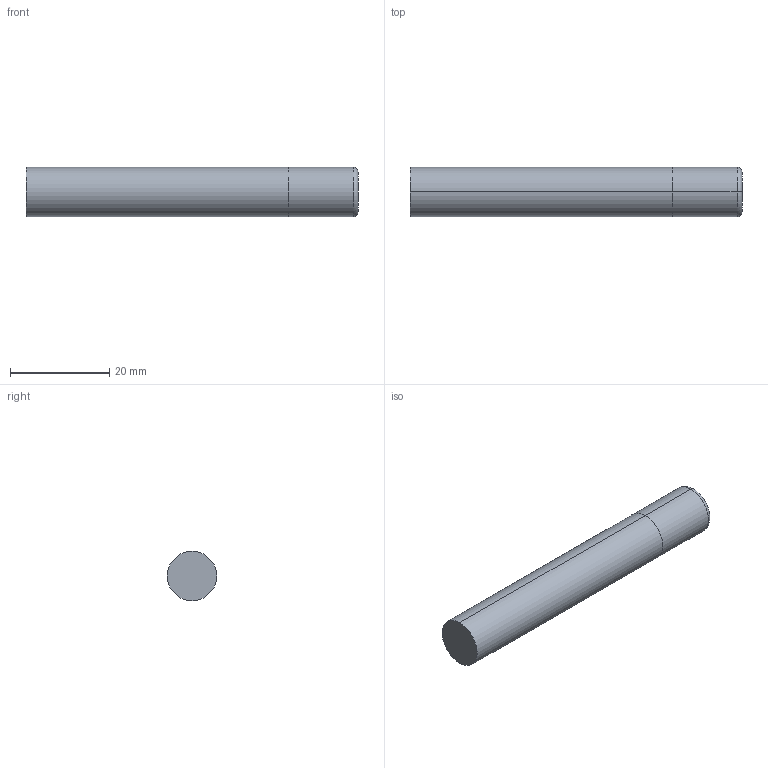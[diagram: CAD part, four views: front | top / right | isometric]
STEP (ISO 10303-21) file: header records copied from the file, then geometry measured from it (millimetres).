
FILE_DESCRIPTION (( 'STEP AP214' ), '1' );
FILE_NAME ('SSIST510M-1.STEP', '2025-05-29T19:26:20', ( '' ), ( '' ), 'SwSTEP 2.0', 'SolidWorks 2023', '' );
FILE_SCHEMA (( 'AUTOMOTIVE_DESIGN' ));
Length unit declared in the file: millimetre
Products named in the file (3): SSI5 Metric CUTTING_SSIST510M-1; SSI5 Metric SHANK_SSIST510M-1; SSIST510M-1
Assembly tree (2 placements, depth 2):
  SSIST510M-1
    SSI5 Metric CUTTING_SSIST510M-1
    SSI5 Metric SHANK_SSIST510M-1
Bounding box: 67 x 10 x 10 mm (x, y, z)
Volume: 5255.7 mm3; surface area: 2405.1 mm2
Topology: 2 solids, 2 shells, 10 faces, 16 edges, 10 vertices
Faces by surface type: cylinder 4, plane 4, torus 2
Entity records: 324 total; most frequent: DIRECTION 58, CARTESIAN_POINT 41, ORIENTED_EDGE 32, AXIS2_PLACEMENT_3D 27, EDGE_CURVE 16, CIRCLE 12, FACE_OUTER_BOUND 10, ADVANCED_FACE 10
